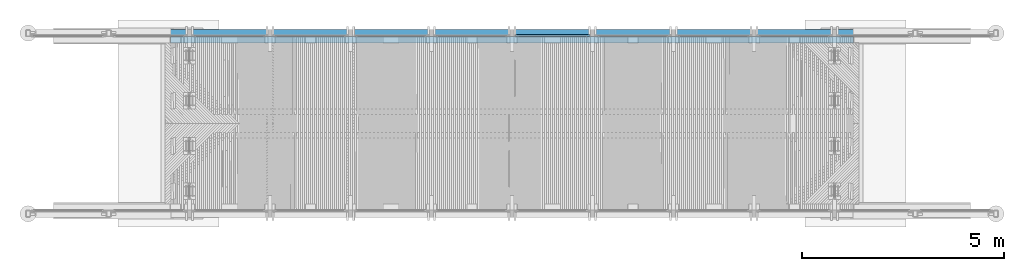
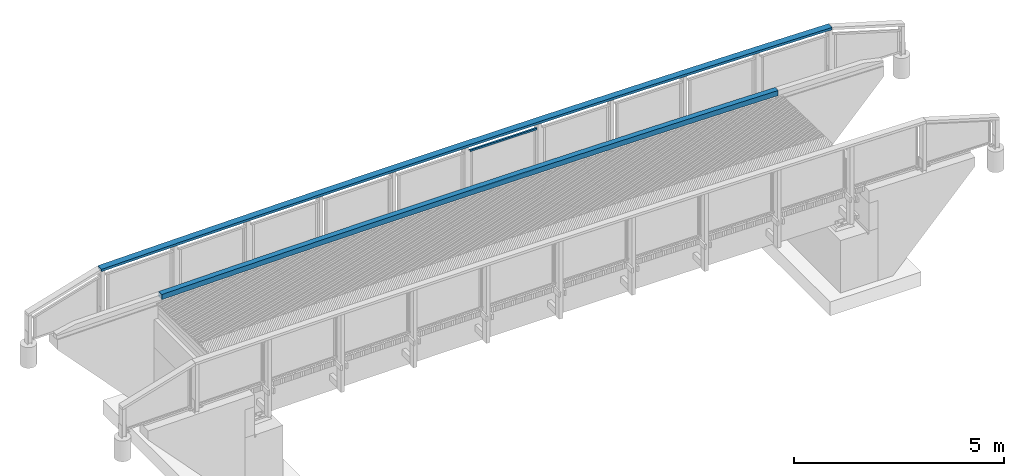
# One storey, part 39 of 65: 4 beams.
"""IFC2X3 building model written with IfcOpenShell, lengths in millimetres."""

import ifcopenshell
import ifcopenshell.guid

model = None  # the IFC model being written
_history = None  # IfcOwnerHistory: only IFC2X3 demands one
_inside = {}  # id of a spatial element -> (the spatial element, [elements in it])
_under = {}  # id of a project, library or spatial element -> (it, [spatial elements below it])
_declared = {}  # id of a project -> (the project, [libraries it declares])
_typed = {}  # id of a type object -> (the type object, [elements of that type])
_made_of = {}  # id of a material, layer set ... -> (it, [elements and type objects made of it])


def new_model(schema):
    """Start an empty IFC model of exactly this schema.

    Asked for "IFC4X3", IfcOpenShell would pick the latest addendum, in which some entities
    have other attributes; the version numbers below select the first issue.
    IFC2X3 requires an IfcOwnerHistory on every rooted entity: one is made here for all.
    """
    global model, _history
    if schema == "IFC4X3":
        model = ifcopenshell.file(schema_version=(4, 3, 0, 0))
    else:
        model = ifcopenshell.file(schema=schema)
    _inside.clear()
    _under.clear()
    _declared.clear()
    _typed.clear()
    _made_of.clear()
    _history = None
    if model.schema == "IFC2X3":
        org = make("IfcOrganization", Name="unknown")
        user = make(
            "IfcPersonAndOrganization",
            ThePerson=make("IfcPerson", FamilyName="unknown"),
            TheOrganization=org,
        )
        app = make(
            "IfcApplication",
            ApplicationDeveloper=org,
            Version="unknown",
            ApplicationFullName="unknown",
            ApplicationIdentifier="unknown",
        )
        _history = make(
            "IfcOwnerHistory",
            OwningUser=user,
            OwningApplication=app,
            ChangeAction="ADDED",
            CreationDate=0,
        )
    return model


def make(cls, **values):
    """One entity of the class cls with the attributes given. An attribute that is None is left unset."""
    return model.create_entity(
        cls, **{name: value for name, value in values.items() if value is not None}
    )


def rooted(cls, **values):
    """An entity with a GlobalId (a new one), such as an element, a storey or a relation."""
    return make(cls, GlobalId=ifcopenshell.guid.new(), OwnerHistory=_history, **values)


def si_unit(unit_type, name, prefix=None):
    """IfcSIUnit, for example si_unit("LENGTHUNIT", "METRE", prefix="MILLI")."""
    return make("IfcSIUnit", UnitType=unit_type, Prefix=prefix, Name=name)


def assignment(units):
    """IfcUnitAssignment: the units of a project."""
    return None if units is None else make("IfcUnitAssignment", Units=units)


def point(xyz):
    """IfcCartesianPoint."""
    return None if xyz is None else make("IfcCartesianPoint", Coordinates=xyz)


def direction(xyz):
    """IfcDirection."""
    return None if xyz is None else make("IfcDirection", DirectionRatios=xyz)


def frame(location, z_axis=None, x_axis=None):
    """IfcAxis2Placement3D, a coordinate frame: its origin and axes. An axis left out is left unset."""
    return make(
        "IfcAxis2Placement3D",
        Location=point(location),
        Axis=direction(z_axis),
        RefDirection=direction(x_axis),
    )


def origin_with_axes():
    """The frame at (0, 0, 0) with the z axis (0, 0, 1) and the x axis (1, 0, 0) written out."""
    return frame((0.0, 0.0, 0.0), z_axis=(0.0, 0.0, 1.0), x_axis=(1.0, 0.0, 0.0))


def place(relative_to, where):
    """IfcLocalPlacement: puts the frame where relative to a parent placement (None: the world)."""
    return make(
        "IfcLocalPlacement", PlacementRelTo=relative_to, RelativePlacement=where
    )


def context(
    kind, dimensions, precision=None, world=None, true_north=None, identifier=None
):
    """IfcGeometricRepresentationContext, for example the 3D "Model" context."""
    return make(
        "IfcGeometricRepresentationContext",
        ContextIdentifier=identifier,
        ContextType=kind,
        CoordinateSpaceDimension=dimensions,
        Precision=precision,
        WorldCoordinateSystem=world,
        TrueNorth=true_north,
    )


def subcontext(parent, identifier, kind, view, scale=None):
    """IfcGeometricRepresentationSubContext, for example "Body" below "Model"."""
    return make(
        "IfcGeometricRepresentationSubContext",
        ContextIdentifier=identifier,
        ContextType=kind,
        ParentContext=parent,
        TargetScale=scale,
        TargetView=view,
    )


def project(units=None, contexts=None):
    """IfcProject with its units and contexts."""
    return rooted(
        "IfcProject",
        Name="project",
        RepresentationContexts=contexts,
        UnitsInContext=assignment(units),
    )


def spatial(cls, under=None, at=None, **own):
    """A site, building, storey or space (cls), placed at a placement, below another one or the project."""
    s = rooted(cls, ObjectPlacement=at, **own)
    if under is not None:
        _under.setdefault(under.id(), (under, []))[1].append(s)
    return s


def faces_of(points, faces, orient=None, outer=None):
    """IfcFace entities. A face is a list of loops; a loop is a list of indices into points, from 0.

    orient and outer hold one flag for each loop. By default every Orientation is true, the
    first loop of a face is its IfcFaceOuterBound and the others are IfcFaceBound.
    """
    made = []
    for i, loops in enumerate(faces):
        bounds = []
        for j, loop in enumerate(loops):
            is_outer = j == 0 if outer is None else outer[i][j]
            bounds.append(
                make(
                    "IfcFaceOuterBound" if is_outer else "IfcFaceBound",
                    Bound=make("IfcPolyLoop", Polygon=[points[k] for k in loop]),
                    Orientation=True if orient is None else orient[i][j],
                )
            )
        made.append(make("IfcFace", Bounds=bounds))
    return made


def faceted_brep(points, faces, orient=None, outer=None, voids=None):
    """IfcFacetedBrep: a solid bounded by flat faces; with voids (closed shells), ...WithVoids."""
    shared = [point(p) for p in points]
    hull = make("IfcClosedShell", CfsFaces=faces_of(shared, faces, orient, outer))
    if voids is None:
        return make("IfcFacetedBrep", Outer=hull)
    return make(
        "IfcFacetedBrepWithVoids",
        Outer=hull,
        Voids=[
            make(cls, CfsFaces=faces_of(shared, fs, o, b)) for cls, fs, o, b in voids
        ],
    )


def shape(context_of_items, identifier, shape_type, items):
    """IfcShapeRepresentation: the items that make up one representation, for example the "Body"."""
    return make(
        "IfcShapeRepresentation",
        ContextOfItems=context_of_items,
        RepresentationIdentifier=identifier,
        RepresentationType=shape_type,
        Items=items,
    )


def material(Name=None, Category=None):
    """IfcMaterial."""
    return make("IfcMaterial", Name=Name, Category=Category)


def made_of(thing, what):
    """Note that an element or type object is made of a material, layer set ...; save() writes the relation."""
    if what is not None:
        _made_of.setdefault(what.id(), (what, []))[1].append(thing)
    return thing


def type_object(cls, material=None, **own):
    """A type object (cls), such as IfcWallType, which elements share."""
    return made_of(rooted(cls, **own), material)


def element(
    cls,
    number,
    at=None,
    inside=None,
    cuts=None,
    type_object=None,
    material=None,
    context=None,
    identifier="Body",
    shape_type=None,
    held_by="IfcProductDefinitionShape",
    body=None,
    shapes=None,
    **own,
):
    """One element of the class cls, such as IfcWall. Its Tag is "e" and its number.

    at: its placement. inside: the storey or other place that contains it. cuts: it is an
    opening in that element (IfcRelVoidsElement). A single representation is given by context,
    identifier, shape_type and body (its items); several are given by shapes. held_by: the class
    of the entity that holds the representations. save() writes the other relations.
    """
    e = rooted(cls, Tag="e%d" % number, ObjectPlacement=at, **own)
    if body is not None:
        shapes = [shape(context, identifier, shape_type, body)]
    if shapes is not None:
        e.Representation = make(held_by, Representations=shapes)
    if inside is not None:
        _inside.setdefault(inside.id(), (inside, []))[1].append(e)
    if cuts is not None:
        rooted(
            "IfcRelVoidsElement", RelatingBuildingElement=cuts, RelatedOpeningElement=e
        )
    if type_object is not None:
        _typed.setdefault(type_object.id(), (type_object, []))[1].append(e)
    return made_of(e, material)


def aggregate(whole, parts):
    """IfcRelAggregates: a whole, such as a stair, and the parts it consists of."""
    return rooted("IfcRelAggregates", RelatingObject=whole, RelatedObjects=parts)


def save(model, path):
    """Write the relations noted so far, then the file.

    IfcRelAggregates (storeys below a building ...), IfcRelContainedInSpatialStructure (elements
    in a storey), IfcRelDefinesByType, IfcRelAssociatesMaterial and IfcRelDeclares: one each for
    every whole, place, type object, material and project.
    """
    for whole, parts in _under.values():
        aggregate(whole, parts)
    for where, things in _inside.values():
        rooted(
            "IfcRelContainedInSpatialStructure",
            RelatedElements=things,
            RelatingStructure=where,
        )
    for kind, things in _typed.values():
        rooted("IfcRelDefinesByType", RelatedObjects=things, RelatingType=kind)
    for what, things in _made_of.values():
        rooted("IfcRelAssociatesMaterial", RelatedObjects=things, RelatingMaterial=what)
    for by, libraries in _declared.values():
        rooted("IfcRelDeclares", RelatingContext=by, RelatedDefinitions=libraries)
    model.write(path)


model = new_model("IFC2X3")

# Units and contexts
model_context = context("Model", 3, precision=1e-05, world=origin_with_axes())
body_context = subcontext(model_context, "Body", "Model", "MODEL_VIEW")
ifc_project = project(units=[si_unit("LENGTHUNIT", "METRE", prefix="MILLI"), si_unit("AREAUNIT", "SQUARE_METRE"), si_unit("VOLUMEUNIT", "CUBIC_METRE"), si_unit("MASSUNIT", "GRAM", prefix="KILO"), si_unit("TIMEUNIT", "SECOND"), si_unit("PLANEANGLEUNIT", "RADIAN"), si_unit("SOLIDANGLEUNIT", "STERADIAN"), si_unit("THERMODYNAMICTEMPERATUREUNIT", "DEGREE_CELSIUS"), si_unit("LUMINOUSINTENSITYUNIT", "LUMEN")], contexts=[model_context])

# Site, building, storey
site_placement = place(None, origin_with_axes())
site = spatial("IfcSite", under=ifc_project, at=site_placement, Name="Undefined", CompositionType="ELEMENT")
building_placement = place(site_placement, origin_with_axes())
building = spatial("IfcBuilding", under=site, at=building_placement, Name="Undefined", CompositionType="ELEMENT")
storey_placement = place(building_placement, origin_with_axes())
storey = spatial("IfcBuildingStorey", under=building, at=storey_placement, Name="Undefined", CompositionType="ELEMENT", Elevation=0.0)

# Beams
ifc_material_1 = material(Name="TIMBER/Timber_Undefined")
beam_type_1 = type_object("IfcBeamType", Name="150*150", PredefinedType="NOTDEFINED")
beam_1_placement = place(storey_placement, frame((-101.638019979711, 24440.0049077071, 3288.62561019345), z_axis=(0.0, -1.0, 0.0), x_axis=(1.0, 0.0, 0.0)))
element("IfcBeam", 1, at=beam_1_placement, inside=storey, type_object=beam_type_1, material=ifc_material_1, Name="TÖRMÄYSJOHDE", ObjectType="150*150", context=body_context, shape_type="Brep", body=[
    faceted_brep([(-322.982711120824, -79.4552193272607, 75.0), (-325.088810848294, 70.5299944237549, 75.0), (-367.511180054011, 69.9228401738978, 75.0), (-368.361913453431, -80.1046921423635, 75.0), (-325.088810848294, 70.5299944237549, -75.0), (-367.511180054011, 69.9228401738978, -75.0), (-322.982711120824, -79.4552193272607, -75.0), (-368.361913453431, -80.1046921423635, -75.0), (1.01255045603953, -74.9931646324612, -75.0), (1.01255045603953, -74.9931646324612, 75.0), (-1.01255045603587, 74.9931646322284, 75.0), (-1.01255045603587, 74.9931646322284, -75.0), (323.066072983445, 79.2813189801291, -75.0), (325.010174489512, -70.7060820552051, -75.0), (325.010174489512, -70.7060820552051, 75.0), (323.066072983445, 79.2813189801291, 75.0), (647.146964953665, 83.3944562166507, 75.0), (647.146964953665, 83.3944562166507, -75.0), (649.010066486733, -66.5939728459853, -75.0), (649.010066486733, -66.5939728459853, 75.0), (973.012131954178, -62.6568382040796, 75.0), (971.230030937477, 87.3325751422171, 75.0), (971.230030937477, 87.3325751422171, -75.0), (973.012131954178, -62.6568382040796, -75.0), (1297.01627639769, -58.8946792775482, -75.0), (1297.01627639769, -58.8946792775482, 75.0), (1295.3151764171, 91.0956746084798, 75.0), (1295.3151764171, 91.0956746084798, -75.0), (1619.40230687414, 94.6837535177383, -75.0), (1621.0224053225, -55.307497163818, -75.0), (1621.0224053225, -55.307497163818, 75.0), (1619.40230687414, 94.6837535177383, 75.0), (1943.49132778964, 98.096810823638, 75.0), (1943.49132778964, 98.096810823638, -75.0), (1945.03042423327, -51.8952929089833, -75.0), (1945.03042423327, -51.8952929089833, 75.0), (2269.04023863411, -48.6580675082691, 75.0), (2267.58214464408, 101.334845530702, 75.0), (2267.58214464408, 101.334845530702, -75.0), (2269.04023863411, -48.6580675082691, -75.0), (2593.05175402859, -45.5958219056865, -75.0), (2593.05175402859, -45.5958219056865, 75.0), (2591.67466291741, 104.397856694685, 75.0), (2591.67466291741, 104.397856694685, -75.0), (2915.7687880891, 107.285843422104, -75.0), (2917.06487591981, -42.7085569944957, -75.0), (2917.06487591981, -42.7085569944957, 75.0), (2915.7687880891, 107.285843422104, 75.0), (3239.86442563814, 109.998804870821, 75.0), (3239.86442563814, 109.998804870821, -75.0), (3241.07950981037, -39.9962736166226, -75.0), (3241.07950981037, -39.9962736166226, 75.0), (3565.09556120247, -37.4589725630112, 75.0), (3563.96148104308, 112.536740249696, 75.0), (3563.96148104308, 112.536740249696, -75.0), (3565.09556120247, -37.4589725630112, -75.0), (3889.11293559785, -35.0966545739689, -75.0), (3889.11293559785, -35.0966545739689, 75.0), (3888.05985978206, 114.899648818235, 75.0), (3888.05985978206, 114.899648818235, -75.0), (4212.15946733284, 117.087529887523, -75.0), (4213.1315384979, -32.9093203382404, -75.0), (4213.1315384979, -32.9093203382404, 75.0), (4212.15946733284, 117.087529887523, 75.0), (4536.2602091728, 119.100382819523, 75.0), (4536.2602091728, 119.100382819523, -75.0), (4537.15127540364, -30.8969704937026, -75.0), (4537.15127540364, -30.8969704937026, 75.0), (4861.17205181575, -29.0596056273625, 75.0), (4860.36199077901, 120.938207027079, 75.0), (4860.36199077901, 120.938207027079, -75.0), (4861.17205181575, -29.0596056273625, -75.0), (5185.19377323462, -27.3972262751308, -75.0), (5185.19377323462, -27.3972262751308, 75.0), (5184.46471762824, 122.601001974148, 75.0), (5184.46471762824, 122.601001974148, -75.0), (5508.56829519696, 124.088767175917, -75.0), (5509.21634516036, -25.9098329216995, -75.0), (5509.21634516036, -25.9098329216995, 75.0), (5508.56829519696, 124.088767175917, 75.0), (5832.67262896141, 125.401502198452, 75.0), (5832.67262896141, 125.401502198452, -75.0), (5833.23967309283, -24.5974260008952, -75.0), (5833.23967309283, -24.5974260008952, 75.0), (6157.26366253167, -23.4600058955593, 75.0), (6156.77762439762, 126.539206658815, 75.0), (6156.77762439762, 126.539206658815, -75.0), (6157.26366253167, -23.4600058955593, -75.0), (6481.28821897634, -22.4975729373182, -75.0), (6481.28821897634, -22.4975729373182, 75.0), (6480.88318698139, 127.501880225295, 75.0), (6480.88318698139, 127.501880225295, -75.0), (6804.98922218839, 128.289522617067, -75.0), (6805.3132479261, -21.7101274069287, -75.0), (6805.3132479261, -21.7101274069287, 75.0), (6804.98922218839, 128.289522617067, 75.0), (7129.09563549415, 128.902133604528, 75.0), (7129.09563549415, 128.902133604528, -75.0), (7129.33865488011, -21.0976695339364, -75.0), (7129.33865488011, -21.0976695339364, 75.0), (7453.36434533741, -20.6601994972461, 75.0), (7453.20233237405, 129.339713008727, 75.0), (7453.20233237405, 129.339713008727, -75.0), (7453.36434533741, -20.6601994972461, -75.0), (7777.39022479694, -20.3977174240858, -75.0), (7777.39022479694, -20.3977174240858, 75.0), (7777.30921830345, 129.602260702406, 75.0), (7777.30921830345, 129.602260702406, -75.0), (8101.4161987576, 129.689776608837, -75.0), (8101.4161987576, -20.3102233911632, -75.0), (8101.4161987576, -20.3102233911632, 75.0), (8101.4161987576, 129.689776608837, 75.0), (8425.52317921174, 129.602260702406, 75.0), (8425.52317921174, 129.602260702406, -75.0), (8425.44217271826, -20.3977174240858, -75.0), (8425.44217271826, -20.3977174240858, 75.0), (8749.46805217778, -20.6601994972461, 75.0), (8749.63006514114, 129.339713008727, 75.0), (8749.63006514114, 129.339713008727, -75.0), (8749.46805217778, -20.6601994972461, -75.0), (9073.49374263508, -21.0976695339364, -75.0), (9073.49374263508, -21.0976695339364, 75.0), (9073.73676202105, 128.902133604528, 75.0), (9073.73676202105, 128.902133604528, -75.0), (9397.8431753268, 128.289522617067, -75.0), (9397.51914958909, -21.7101274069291, -75.0), (9397.51914958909, -21.7101274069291, 75.0), (9397.8431753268, 128.289522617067, 75.0), (9721.9492105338, 127.501880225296, 75.0), (9721.9492105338, 127.501880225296, -75.0), (9721.54417853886, -22.4975729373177, -75.0), (9721.54417853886, -22.4975729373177, 75.0), (10045.5687349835, -23.4600058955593, 75.0), (10046.0547731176, 126.539206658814, 75.0), (10046.0547731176, 126.539206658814, -75.0), (10045.5687349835, -23.4600058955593, -75.0), (10369.5927244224, -24.5974260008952, -75.0), (10369.5927244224, -24.5974260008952, 75.0), (10370.1597685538, 125.401502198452, 75.0), (10370.1597685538, 125.401502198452, -75.0), (10694.2641023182, 124.088767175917, -75.0), (10693.6160523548, -25.9098329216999, -75.0), (10693.6160523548, -25.9098329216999, 75.0), (10694.2641023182, 124.088767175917, 75.0), (11018.367679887, 122.601001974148, 75.0), (11018.367679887, 122.601001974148, -75.0), (11017.6386242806, -27.3972262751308, -75.0), (11017.6386242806, -27.3972262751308, 75.0), (11341.6603456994, -29.0596056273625, 75.0), (11342.4704067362, 120.938207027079, 75.0), (11342.4704067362, 120.938207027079, -75.0), (11341.6603456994, -29.0596056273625, -75.0), (11665.6811221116, -30.8969704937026, -75.0), (11665.6811221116, -30.8969704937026, 75.0), (11666.5721883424, 119.100382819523, 75.0), (11666.5721883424, 119.100382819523, -75.0), (11990.6729301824, 117.087529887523, -75.0), (11989.7008590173, -32.9093203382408, -75.0), (11989.7008590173, -32.9093203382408, 75.0), (11990.6729301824, 117.087529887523, 75.0), (12314.7725377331, 114.899648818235, 75.0), (12314.7725377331, 114.899648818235, -75.0), (12313.7194619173, -35.0966545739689, -75.0), (12313.7194619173, -35.0966545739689, 75.0), (12637.7368363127, -37.4589725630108, 75.0), (12638.8709164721, 112.536740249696, 75.0), (12638.8709164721, 112.536740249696, -75.0), (12637.7368363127, -37.4589725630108, -75.0), (12961.7528877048, -39.9962736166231, -75.0), (12961.7528877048, -39.9962736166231, 75.0), (12962.9679718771, 109.998804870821, 75.0), (12962.9679718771, 109.998804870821, -75.0), (13287.0636094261, 107.285843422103, -75.0), (13285.7675215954, -42.7085569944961, -75.0), (13285.7675215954, -42.7085569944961, 75.0), (13287.0636094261, 107.285843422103, 75.0), (13611.1577345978, 104.397856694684, 75.0), (13611.1577345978, 104.397856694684, -75.0), (13609.7806434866, -45.5958219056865, -75.0), (13609.7806434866, -45.5958219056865, 75.0), (13933.7921588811, -48.6580675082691, 75.0), (13935.2502528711, 101.334845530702, 75.0), (13935.2502528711, 101.334845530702, -75.0), (13933.7921588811, -48.6580675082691, -75.0), (14257.8019732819, -51.8952929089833, -75.0), (14257.8019732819, -51.8952929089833, 75.0), (14259.3410697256, 98.096810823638, 75.0), (14259.3410697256, 98.096810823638, -75.0), (14583.430090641, 94.6837535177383, -75.0), (14581.8099921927, -55.3074971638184, -75.0), (14581.8099921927, -55.3074971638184, 75.0), (14583.430090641, 94.6837535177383, 75.0), (14907.5172210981, 91.0956746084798, 75.0), (14907.5172210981, 91.0956746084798, -75.0), (14905.8161211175, -58.8946792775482, -75.0), (14905.8161211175, -58.8946792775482, 75.0), (15229.820265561, -62.6568382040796, 75.0), (15231.6023665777, 87.3325751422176, 75.0), (15231.6023665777, 87.3325751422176, -75.0), (15229.820265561, -62.6568382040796, -75.0), (15553.8223310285, -66.5939728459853, -75.0), (15553.8223310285, -66.5939728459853, 75.0), (15555.6854325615, 83.3944562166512, 75.0), (15555.6854325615, 83.3944562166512, -75.0), (15879.7663245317, 79.2813189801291, -75.0), (15877.8222230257, -70.7060820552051, -75.0), (15877.8222230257, -70.7060820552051, 75.0), (15879.7663245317, 79.2813189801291, 75.0), (16203.8449479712, 74.9931646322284, 75.0), (16203.8449479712, 74.9931646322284, -75.0), (16201.8198470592, -74.9931646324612, -75.0), (16201.8198470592, -74.9931646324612, 75.0), (16513.3537972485, -79.2803664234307, 75.0), (16515.4567816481, 70.7048910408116, 75.0), (16515.4567816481, 70.7048910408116, -75.0), (16513.3537972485, -79.2803664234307, -75.0), (16571.6382119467, -80.1127239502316, -75.0), (16571.6382119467, -80.1127239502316, 75.0), (16570.7872297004, 69.9147190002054, 75.0), (16570.7872297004, 69.9147190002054, -75.0)], [[[0, 1, 2, 3]], [[1, 4, 5, 2]], [[4, 6, 7, 5]], [[3, 2, 5, 7]], [[6, 0, 3, 7]], [[0, 6, 8, 9]], [[1, 0, 9, 10]], [[4, 1, 10, 11]], [[6, 4, 11, 8]], [[8, 11, 12, 13]], [[9, 8, 13, 14]], [[10, 9, 14, 15]], [[11, 10, 15, 12]], [[12, 15, 16, 17]], [[13, 12, 17, 18]], [[14, 13, 18, 19]], [[15, 14, 19, 16]], [[16, 19, 20, 21]], [[17, 16, 21, 22]], [[18, 17, 22, 23]], [[19, 18, 23, 20]], [[20, 23, 24, 25]], [[21, 20, 25, 26]], [[22, 21, 26, 27]], [[23, 22, 27, 24]], [[24, 27, 28, 29]], [[25, 24, 29, 30]], [[26, 25, 30, 31]], [[27, 26, 31, 28]], [[28, 31, 32, 33]], [[29, 28, 33, 34]], [[30, 29, 34, 35]], [[31, 30, 35, 32]], [[32, 35, 36, 37]], [[33, 32, 37, 38]], [[34, 33, 38, 39]], [[35, 34, 39, 36]], [[36, 39, 40, 41]], [[37, 36, 41, 42]], [[38, 37, 42, 43]], [[39, 38, 43, 40]], [[40, 43, 44, 45]], [[41, 40, 45, 46]], [[42, 41, 46, 47]], [[43, 42, 47, 44]], [[44, 47, 48, 49]], [[45, 44, 49, 50]], [[46, 45, 50, 51]], [[47, 46, 51, 48]], [[48, 51, 52, 53]], [[49, 48, 53, 54]], [[50, 49, 54, 55]], [[51, 50, 55, 52]], [[52, 55, 56, 57]], [[53, 52, 57, 58]], [[54, 53, 58, 59]], [[55, 54, 59, 56]], [[56, 59, 60, 61]], [[57, 56, 61, 62]], [[58, 57, 62, 63]], [[59, 58, 63, 60]], [[60, 63, 64, 65]], [[61, 60, 65, 66]], [[62, 61, 66, 67]], [[63, 62, 67, 64]], [[64, 67, 68, 69]], [[65, 64, 69, 70]], [[66, 65, 70, 71]], [[67, 66, 71, 68]], [[68, 71, 72, 73]], [[69, 68, 73, 74]], [[70, 69, 74, 75]], [[71, 70, 75, 72]], [[72, 75, 76, 77]], [[73, 72, 77, 78]], [[74, 73, 78, 79]], [[75, 74, 79, 76]], [[76, 79, 80, 81]], [[77, 76, 81, 82]], [[78, 77, 82, 83]], [[79, 78, 83, 80]], [[80, 83, 84, 85]], [[81, 80, 85, 86]], [[82, 81, 86, 87]], [[83, 82, 87, 84]], [[84, 87, 88, 89]], [[85, 84, 89, 90]], [[86, 85, 90, 91]], [[87, 86, 91, 88]], [[88, 91, 92, 93]], [[89, 88, 93, 94]], [[90, 89, 94, 95]], [[91, 90, 95, 92]], [[92, 95, 96, 97]], [[93, 92, 97, 98]], [[94, 93, 98, 99]], [[95, 94, 99, 96]], [[96, 99, 100, 101]], [[97, 96, 101, 102]], [[98, 97, 102, 103]], [[99, 98, 103, 100]], [[100, 103, 104, 105]], [[101, 100, 105, 106]], [[102, 101, 106, 107]], [[103, 102, 107, 104]], [[104, 107, 108, 109]], [[105, 104, 109, 110]], [[106, 105, 110, 111]], [[107, 106, 111, 108]], [[108, 111, 112, 113]], [[109, 108, 113, 114]], [[110, 109, 114, 115]], [[111, 110, 115, 112]], [[112, 115, 116, 117]], [[113, 112, 117, 118]], [[114, 113, 118, 119]], [[115, 114, 119, 116]], [[116, 119, 120, 121]], [[117, 116, 121, 122]], [[118, 117, 122, 123]], [[119, 118, 123, 120]], [[120, 123, 124, 125]], [[121, 120, 125, 126]], [[122, 121, 126, 127]], [[123, 122, 127, 124]], [[124, 127, 128, 129]], [[125, 124, 129, 130]], [[126, 125, 130, 131]], [[127, 126, 131, 128]], [[128, 131, 132, 133]], [[129, 128, 133, 134]], [[130, 129, 134, 135]], [[131, 130, 135, 132]], [[132, 135, 136, 137]], [[133, 132, 137, 138]], [[134, 133, 138, 139]], [[135, 134, 139, 136]], [[136, 139, 140, 141]], [[137, 136, 141, 142]], [[138, 137, 142, 143]], [[139, 138, 143, 140]], [[140, 143, 144, 145]], [[141, 140, 145, 146]], [[142, 141, 146, 147]], [[143, 142, 147, 144]], [[144, 147, 148, 149]], [[145, 144, 149, 150]], [[146, 145, 150, 151]], [[147, 146, 151, 148]], [[148, 151, 152, 153]], [[149, 148, 153, 154]], [[150, 149, 154, 155]], [[151, 150, 155, 152]], [[152, 155, 156, 157]], [[153, 152, 157, 158]], [[154, 153, 158, 159]], [[155, 154, 159, 156]], [[156, 159, 160, 161]], [[157, 156, 161, 162]], [[158, 157, 162, 163]], [[159, 158, 163, 160]], [[160, 163, 164, 165]], [[161, 160, 165, 166]], [[162, 161, 166, 167]], [[163, 162, 167, 164]], [[164, 167, 168, 169]], [[165, 164, 169, 170]], [[166, 165, 170, 171]], [[167, 166, 171, 168]], [[168, 171, 172, 173]], [[169, 168, 173, 174]], [[170, 169, 174, 175]], [[171, 170, 175, 172]], [[172, 175, 176, 177]], [[173, 172, 177, 178]], [[174, 173, 178, 179]], [[175, 174, 179, 176]], [[176, 179, 180, 181]], [[177, 176, 181, 182]], [[178, 177, 182, 183]], [[179, 178, 183, 180]], [[180, 183, 184, 185]], [[181, 180, 185, 186]], [[182, 181, 186, 187]], [[183, 182, 187, 184]], [[184, 187, 188, 189]], [[185, 184, 189, 190]], [[186, 185, 190, 191]], [[187, 186, 191, 188]], [[188, 191, 192, 193]], [[189, 188, 193, 194]], [[190, 189, 194, 195]], [[191, 190, 195, 192]], [[192, 195, 196, 197]], [[193, 192, 197, 198]], [[194, 193, 198, 199]], [[195, 194, 199, 196]], [[196, 199, 200, 201]], [[197, 196, 201, 202]], [[198, 197, 202, 203]], [[199, 198, 203, 200]], [[200, 203, 204, 205]], [[201, 200, 205, 206]], [[202, 201, 206, 207]], [[203, 202, 207, 204]], [[204, 207, 208, 209]], [[205, 204, 209, 210]], [[206, 205, 210, 211]], [[207, 206, 211, 208]], [[208, 211, 212, 213]], [[209, 208, 213, 214]], [[210, 209, 214, 215]], [[211, 210, 215, 212]], [[212, 215, 216, 217]], [[213, 212, 217, 218]], [[214, 213, 218, 219]], [[215, 214, 219, 216]], [[218, 217, 216, 219]]]),
])
ifc_material_2 = material(Name="STEEL/S235JR")
beam_type_2 = type_object("IfcBeamType", Name="L50*5", PredefinedType="NOTDEFINED")
for number, where, z_axis, x_axis, name in (
    (2, (8083.04512997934, 24539.9899999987, 3291.27214206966), (0.0, 1.0, 0.0), (0.999998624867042, 0.0, -0.00165839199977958), "BEAM"),
    (3, (9931.95617697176, 24539.990000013, 4438.20661362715), (0.0, 1.0, 0.0), (-0.999998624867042, 0.0, 0.00165839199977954), "BEAM"),
):
    element("IfcBeam", number, at=place(storey_placement, frame(where, z_axis=z_axis, x_axis=x_axis)), inside=storey, type_object=beam_type_2, material=ifc_material_2, Name=name, ObjectType="L50*5", context=body_context, shape_type="Brep", body=[
        faceted_brep([(0.0, 25.0, -25.0), (0.0, 25.0, 25.0), (1848.99650923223, 25.0, 25.0), (1848.99650923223, 25.0, -25.0), (0.0, 20.0, 25.0), (1848.99650923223, 20.0, 25.0), (0.0, 20.0, -20.0), (1848.99650923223, 20.0, -20.0), (0.0, -25.0, -20.0), (1848.99650923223, -25.0000000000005, -20.0), (0.0, -25.0, -25.0), (1848.99650923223, -25.0000000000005, -25.0)], [[[0, 1, 2, 3]], [[1, 4, 5, 2]], [[4, 6, 7, 5]], [[6, 8, 9, 7]], [[8, 10, 11, 9]], [[10, 0, 3, 11]], [[5, 7, 9, 11, 3, 2]], [[10, 8, 6, 4, 1, 0]]]),
    ])
beam_type_3 = type_object("IfcBeamType", Name="180*70", PredefinedType="NOTDEFINED")
beam_2_placement = place(storey_placement, frame((-2050.58316541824, 24604.987908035, 4514.55540579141), z_axis=(0.0, 1.0, 0.0), x_axis=(1.0, 0.0, 0.0)))
element("IfcBeam", 4, at=beam_2_placement, inside=storey, type_object=beam_type_3, material=ifc_material_1, Name="YLÄJOHDE", ObjectType="180*70", context=body_context, shape_type="Brep", body=[
    faceted_brep([(402.548160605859, 28.4307633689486, 90.0), (402.548160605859, 28.4307633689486, -90.0), (9.58316613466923, 34.8481648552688, -90.0), (9.58316613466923, 34.8481648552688, 90.0), (401.428487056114, -41.5602812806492, -90.0), (9.58316627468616, -35.1611648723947, -90.0), (401.428487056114, -41.5602812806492, 90.0), (9.58316627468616, -35.1611648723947, 90.0), (803.444421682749, -47.8574786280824, 90.0), (804.517445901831, 22.1342967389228, 90.0), (804.517445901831, 22.1342967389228, -90.0), (803.444421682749, -47.8574786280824, -90.0), (1205.46446410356, -53.8867306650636, -90.0), (1205.46446410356, -53.8867306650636, 90.0), (1206.49083851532, 16.105744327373, 90.0), (1206.49083851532, 16.105744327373, -90.0), (1608.46815988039, 10.3451088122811, -90.0), (1607.4884357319, -59.6480347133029, -90.0), (1607.4884357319, -59.6480347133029, 90.0), (1608.46815988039, 10.3451088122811, 90.0), (2010.44923142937, 4.85239275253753, 90.0), (2010.44923142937, 4.85239275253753, -90.0), (2009.51615797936, -65.1413882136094, -90.0), (2009.51615797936, -65.1413882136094, 90.0), (2411.54745225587, -70.3667887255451, 90.0), (2412.43387459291, -0.372401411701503, 90.0), (2412.43387459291, -0.372401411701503, -90.0), (2411.54745225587, -70.3667887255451, -90.0), (2813.58213996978, -75.3242339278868, -90.0), (2813.58213996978, -75.3242339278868, 90.0), (2814.42191080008, -5.32927135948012, 90.0), (2814.42191080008, -5.32927135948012, -90.0), (3216.41316147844, -10.0182148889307, -90.0), (3215.62004252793, -80.0137216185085, -90.0), (3215.62004252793, -80.0137216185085, 90.0), (3216.41316147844, -10.0182148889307, 90.0), (3618.40744805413, -14.4392299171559, 90.0), (3618.40744805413, -14.4392299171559, -90.0), (3617.66098133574, -84.4352497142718, -90.0), (3617.66098133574, -84.4352497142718, 90.0), (4019.70477779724, -88.5888162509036, 90.0), (4020.40459195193, -18.5923144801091, 90.0), (4020.40459195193, -18.5923144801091, -90.0), (4019.70477779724, -88.5888162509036, -90.0), (4421.75125331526, -92.4744193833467, -90.0), (4421.75125331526, -92.4744193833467, 90.0), (4422.40441459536, -22.4774667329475, 90.0), (4422.40441459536, -22.4774667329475, -90.0), (4824.40673740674, -26.0946849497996, -90.0), (4823.80022929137, -96.0920573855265, -90.0), (4823.80022929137, -96.0920573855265, 90.0), (4824.40673740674, -26.0946849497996, 90.0), (5226.4113818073, -29.4439675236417, 90.0), (5226.4113818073, -29.4439675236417, -90.0), (5225.85152712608, -99.4417286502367, -90.0), (5225.85152712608, -99.4417286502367, 90.0), (5627.90496821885, -102.523431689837, 90.0), (5628.41816921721, -32.5253129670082, 90.0), (5628.41816921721, -32.5253129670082, -90.0), (5627.90496821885, -102.523431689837, -90.0), (6029.96037396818, -105.337165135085, -90.0), (6029.96037396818, -105.337165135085, 90.0), (6030.4269210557, -35.3387199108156, 90.0), (6030.4269210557, -35.3387199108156, -90.0), (6432.43745874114, -37.8841871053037, -90.0), (6432.01756577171, -107.882927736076, -90.0), (6432.01756577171, -107.882927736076, 90.0), (6432.43745874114, -37.8841871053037, 90.0), (6834.4496036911, -40.1617134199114, 90.0), (6834.4496036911, -40.1617134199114, -90.0), (6834.07636502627, -110.160718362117, -90.0), (6834.07636502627, -110.160718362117, 90.0), (7236.136593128, -112.170536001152, 90.0), (7236.46317732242, -42.1712978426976, 90.0), (7236.46317732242, -42.1712978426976, -90.0), (7236.136593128, -112.170536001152, -90.0), (7638.19807147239, -113.912379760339, -90.0), (7638.19807147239, -113.912379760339, 90.0), (7638.47800105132, -43.9129394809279, 90.0), (7638.47800105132, -43.9129394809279, -90.0), (8040.49389629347, -45.3866375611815, -90.0), (8040.26062145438, -115.38624886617, -90.0), (8040.26062145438, -115.38624886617, 90.0), (8040.49389629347, -45.3866375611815, 90.0), (8442.51068446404, -46.5923914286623, 90.0), (8442.51068446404, -46.5923914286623, -90.0), (8442.32406446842, -116.592142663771, -90.0), (8442.32406446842, -116.592142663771, 90.0), (8844.38822190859, -117.530060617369, 90.0), (8844.52818697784, -47.530200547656, 90.0), (8844.52818697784, -47.530200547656, -90.0), (8844.38822190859, -117.530060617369, -90.0), (9246.45291516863, -118.200002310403, -90.0), (9246.45291516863, -118.200002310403, 90.0), (9246.54622524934, -48.2000645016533, 90.0), (9246.54622524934, -48.2000645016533, -90.0), (9648.56462069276, -48.6019829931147, -90.0), (9648.51796564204, -118.601967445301, -90.0), (9648.51796564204, -118.601967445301, 90.0), (9648.56462069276, -48.6019829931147, 90.0), (10050.5831947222, -48.7359558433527, 90.0), (10050.5831947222, -48.7359558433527, -90.0), (10050.5831947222, -118.735955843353, -90.0), (10050.5831947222, -118.735955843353, 90.0), (10452.6484238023, -118.601967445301, 90.0), (10452.6017687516, -48.6019829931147, 90.0), (10452.6017687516, -48.6019829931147, -90.0), (10452.6484238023, -118.601967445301, -90.0), (10854.7134742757, -118.200002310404, -90.0), (10854.7134742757, -118.200002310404, 90.0), (10854.620164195, -48.2000645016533, 90.0), (10854.620164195, -48.2000645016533, -90.0), (11256.6382024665, -47.530200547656, -90.0), (11256.7781675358, -117.530060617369, -90.0), (11256.7781675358, -117.530060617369, 90.0), (11256.6382024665, -47.530200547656, 90.0), (11658.6557049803, -46.5923914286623, 90.0), (11658.6557049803, -46.5923914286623, -90.0), (11658.8423249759, -116.592142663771, -90.0), (11658.8423249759, -116.592142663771, 90.0), (12060.90576799, -115.386248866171, 90.0), (12060.6724931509, -45.3866375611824, 90.0), (12060.6724931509, -45.3866375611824, -90.0), (12060.90576799, -115.386248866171, -90.0), (12462.968317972, -113.912379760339, -90.0), (12462.968317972, -113.912379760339, 90.0), (12462.688388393, -43.9129394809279, 90.0), (12462.688388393, -43.9129394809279, -90.0), (12864.7032121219, -42.1712978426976, -90.0), (12865.0297963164, -112.170536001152, -90.0), (12865.0297963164, -112.170536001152, 90.0), (12864.7032121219, -42.1712978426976, 90.0), (13266.7167857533, -40.1617134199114, 90.0), (13266.7167857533, -40.1617134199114, -90.0), (13267.0900244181, -110.160718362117, -90.0), (13267.0900244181, -110.160718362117, 90.0), (13669.1488236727, -107.882927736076, 90.0), (13668.7289307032, -37.8841871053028, 90.0), (13668.7289307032, -37.8841871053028, -90.0), (13669.1488236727, -107.882927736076, -90.0), (14071.2060154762, -105.337165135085, -90.0), (14071.2060154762, -105.337165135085, 90.0), (14070.7394683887, -35.3387199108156, 90.0), (14070.7394683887, -35.3387199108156, -90.0), (14472.7482202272, -32.5253129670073, -90.0), (14473.2614212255, -102.523431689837, -90.0), (14473.2614212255, -102.523431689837, 90.0), (14472.7482202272, -32.5253129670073, 90.0), (14874.7550076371, -29.4439675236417, 90.0), (14874.7550076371, -29.4439675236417, -90.0), (14875.3148623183, -99.4417286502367, -90.0), (14875.3148623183, -99.4417286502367, 90.0), (15277.366160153, -96.0920573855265, 90.0), (15276.7596520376, -26.0946849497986, 90.0), (15276.7596520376, -26.0946849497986, -90.0), (15277.366160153, -96.0920573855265, -90.0), (15679.4151361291, -92.4744193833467, -90.0), (15679.4151361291, -92.4744193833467, 90.0), (15678.761974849, -22.4774667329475, 90.0), (15678.761974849, -22.4774667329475, -90.0), (16080.7617974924, -18.5923144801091, -90.0), (16081.4616116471, -88.5888162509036, -90.0), (16081.4616116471, -88.5888162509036, 90.0), (16080.7617974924, -18.5923144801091, 90.0), (16482.7589413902, -14.4392299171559, 90.0), (16482.7589413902, -14.4392299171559, -90.0), (16483.5054081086, -84.4352497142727, -90.0), (16483.5054081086, -84.4352497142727, 90.0), (16885.5463469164, -80.0137216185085, 90.0), (16884.7532279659, -10.0182148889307, 90.0), (16884.7532279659, -10.0182148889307, -90.0), (16885.5463469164, -80.0137216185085, -90.0), (17287.5842494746, -75.3242339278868, -90.0), (17287.5842494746, -75.3242339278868, 90.0), (17286.7444786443, -5.32927135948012, 90.0), (17286.7444786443, -5.32927135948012, -90.0), (17688.7325148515, -0.372401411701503, -90.0), (17689.6189371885, -70.3667887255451, -90.0), (17689.6189371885, -70.3667887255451, 90.0), (17688.7325148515, -0.372401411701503, 90.0), (18090.717158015, 4.85239275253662, 90.0), (18090.717158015, 4.85239275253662, -90.0), (18091.650231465, -65.1413882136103, -90.0), (18091.650231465, -65.1413882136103, 90.0), (18493.6779537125, -59.648034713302, 90.0), (18492.698229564, 10.3451088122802, 90.0), (18492.698229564, 10.3451088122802, -90.0), (18493.6779537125, -59.648034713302, -90.0), (18895.7019253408, -53.8867306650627, -90.0), (18895.7019253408, -53.8867306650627, 90.0), (18894.675550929, 16.1057443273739, 90.0), (18894.675550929, 16.1057443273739, -90.0), (19296.6489435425, 22.1342967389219, -90.0), (19297.7219677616, -47.8574786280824, -90.0), (19297.7219677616, -47.8574786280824, 90.0), (19296.6489435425, 22.1342967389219, 90.0), (19698.6182288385, 28.4307633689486, 90.0), (19698.6182288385, 28.4307633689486, -90.0), (19699.7379023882, -41.5602812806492, -90.0), (19699.7379023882, -41.5602812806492, 90.0), (20089.5831647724, -35.1938272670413, 90.0), (20089.5831646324, 34.8155024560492, 90.0), (20089.5831646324, 34.8155024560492, -90.0), (20089.5831647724, -35.1938272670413, -90.0)], [[[0, 1, 2, 3]], [[1, 4, 5, 2]], [[4, 6, 7, 5]], [[2, 5, 7, 3]], [[6, 0, 3, 7]], [[0, 6, 8, 9]], [[1, 0, 9, 10]], [[4, 1, 10, 11]], [[6, 4, 11, 8]], [[8, 11, 12, 13]], [[9, 8, 13, 14]], [[10, 9, 14, 15]], [[11, 10, 15, 12]], [[12, 15, 16, 17]], [[13, 12, 17, 18]], [[14, 13, 18, 19]], [[15, 14, 19, 16]], [[16, 19, 20, 21]], [[17, 16, 21, 22]], [[18, 17, 22, 23]], [[19, 18, 23, 20]], [[20, 23, 24, 25]], [[21, 20, 25, 26]], [[22, 21, 26, 27]], [[23, 22, 27, 24]], [[24, 27, 28, 29]], [[25, 24, 29, 30]], [[26, 25, 30, 31]], [[27, 26, 31, 28]], [[28, 31, 32, 33]], [[29, 28, 33, 34]], [[30, 29, 34, 35]], [[31, 30, 35, 32]], [[32, 35, 36, 37]], [[33, 32, 37, 38]], [[34, 33, 38, 39]], [[35, 34, 39, 36]], [[36, 39, 40, 41]], [[37, 36, 41, 42]], [[38, 37, 42, 43]], [[39, 38, 43, 40]], [[40, 43, 44, 45]], [[41, 40, 45, 46]], [[42, 41, 46, 47]], [[43, 42, 47, 44]], [[44, 47, 48, 49]], [[45, 44, 49, 50]], [[46, 45, 50, 51]], [[47, 46, 51, 48]], [[48, 51, 52, 53]], [[49, 48, 53, 54]], [[50, 49, 54, 55]], [[51, 50, 55, 52]], [[52, 55, 56, 57]], [[53, 52, 57, 58]], [[54, 53, 58, 59]], [[55, 54, 59, 56]], [[56, 59, 60, 61]], [[57, 56, 61, 62]], [[58, 57, 62, 63]], [[59, 58, 63, 60]], [[60, 63, 64, 65]], [[61, 60, 65, 66]], [[62, 61, 66, 67]], [[63, 62, 67, 64]], [[64, 67, 68, 69]], [[65, 64, 69, 70]], [[66, 65, 70, 71]], [[67, 66, 71, 68]], [[68, 71, 72, 73]], [[69, 68, 73, 74]], [[70, 69, 74, 75]], [[71, 70, 75, 72]], [[72, 75, 76, 77]], [[73, 72, 77, 78]], [[74, 73, 78, 79]], [[75, 74, 79, 76]], [[76, 79, 80, 81]], [[77, 76, 81, 82]], [[78, 77, 82, 83]], [[79, 78, 83, 80]], [[80, 83, 84, 85]], [[81, 80, 85, 86]], [[82, 81, 86, 87]], [[83, 82, 87, 84]], [[84, 87, 88, 89]], [[85, 84, 89, 90]], [[86, 85, 90, 91]], [[87, 86, 91, 88]], [[88, 91, 92, 93]], [[89, 88, 93, 94]], [[90, 89, 94, 95]], [[91, 90, 95, 92]], [[92, 95, 96, 97]], [[93, 92, 97, 98]], [[94, 93, 98, 99]], [[95, 94, 99, 96]], [[96, 99, 100, 101]], [[97, 96, 101, 102]], [[98, 97, 102, 103]], [[99, 98, 103, 100]], [[100, 103, 104, 105]], [[101, 100, 105, 106]], [[102, 101, 106, 107]], [[103, 102, 107, 104]], [[104, 107, 108, 109]], [[105, 104, 109, 110]], [[106, 105, 110, 111]], [[107, 106, 111, 108]], [[108, 111, 112, 113]], [[109, 108, 113, 114]], [[110, 109, 114, 115]], [[111, 110, 115, 112]], [[112, 115, 116, 117]], [[113, 112, 117, 118]], [[114, 113, 118, 119]], [[115, 114, 119, 116]], [[116, 119, 120, 121]], [[117, 116, 121, 122]], [[118, 117, 122, 123]], [[119, 118, 123, 120]], [[120, 123, 124, 125]], [[121, 120, 125, 126]], [[122, 121, 126, 127]], [[123, 122, 127, 124]], [[124, 127, 128, 129]], [[125, 124, 129, 130]], [[126, 125, 130, 131]], [[127, 126, 131, 128]], [[128, 131, 132, 133]], [[129, 128, 133, 134]], [[130, 129, 134, 135]], [[131, 130, 135, 132]], [[132, 135, 136, 137]], [[133, 132, 137, 138]], [[134, 133, 138, 139]], [[135, 134, 139, 136]], [[136, 139, 140, 141]], [[137, 136, 141, 142]], [[138, 137, 142, 143]], [[139, 138, 143, 140]], [[140, 143, 144, 145]], [[141, 140, 145, 146]], [[142, 141, 146, 147]], [[143, 142, 147, 144]], [[144, 147, 148, 149]], [[145, 144, 149, 150]], [[146, 145, 150, 151]], [[147, 146, 151, 148]], [[148, 151, 152, 153]], [[149, 148, 153, 154]], [[150, 149, 154, 155]], [[151, 150, 155, 152]], [[152, 155, 156, 157]], [[153, 152, 157, 158]], [[154, 153, 158, 159]], [[155, 154, 159, 156]], [[156, 159, 160, 161]], [[157, 156, 161, 162]], [[158, 157, 162, 163]], [[159, 158, 163, 160]], [[160, 163, 164, 165]], [[161, 160, 165, 166]], [[162, 161, 166, 167]], [[163, 162, 167, 164]], [[164, 167, 168, 169]], [[165, 164, 169, 170]], [[166, 165, 170, 171]], [[167, 166, 171, 168]], [[168, 171, 172, 173]], [[169, 168, 173, 174]], [[170, 169, 174, 175]], [[171, 170, 175, 172]], [[172, 175, 176, 177]], [[173, 172, 177, 178]], [[174, 173, 178, 179]], [[175, 174, 179, 176]], [[176, 179, 180, 181]], [[177, 176, 181, 182]], [[178, 177, 182, 183]], [[179, 178, 183, 180]], [[180, 183, 184, 185]], [[181, 180, 185, 186]], [[182, 181, 186, 187]], [[183, 182, 187, 184]], [[184, 187, 188, 189]], [[185, 184, 189, 190]], [[186, 185, 190, 191]], [[187, 186, 191, 188]], [[188, 191, 192, 193]], [[189, 188, 193, 194]], [[190, 189, 194, 195]], [[191, 190, 195, 192]], [[192, 195, 196, 197]], [[193, 192, 197, 198]], [[194, 193, 198, 199]], [[195, 194, 199, 196]], [[196, 199, 200, 201]], [[197, 196, 201, 202]], [[198, 197, 202, 203]], [[199, 198, 203, 200]], [[202, 201, 200, 203]]]),
])

save(model, "model.ifc")
